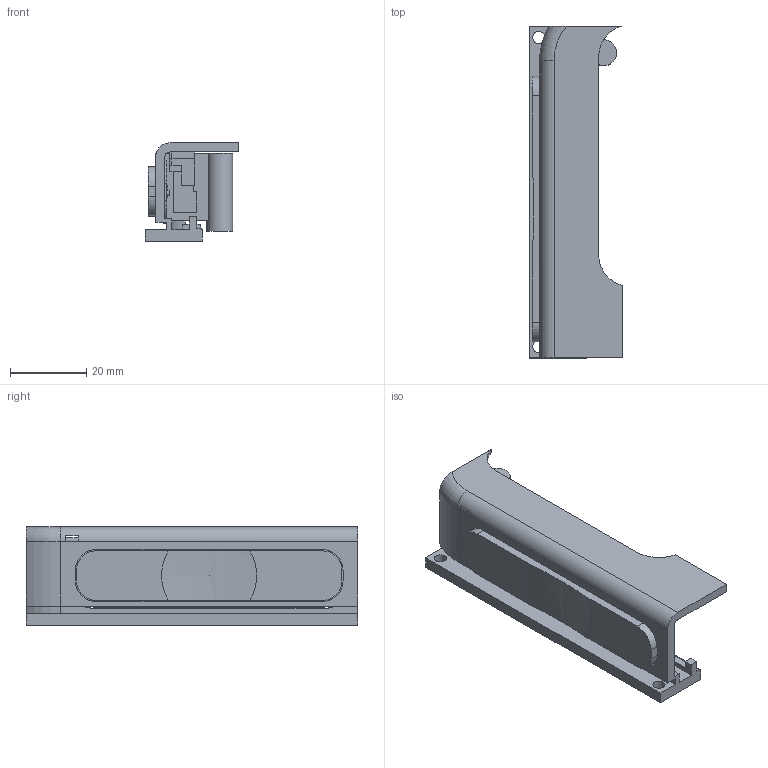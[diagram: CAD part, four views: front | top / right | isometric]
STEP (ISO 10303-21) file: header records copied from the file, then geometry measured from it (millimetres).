
FILE_DESCRIPTION(('Open CASCADE Model'),'2;1');
FILE_NAME('Open CASCADE Shape Model','2026-09-06T11:45:45',('Author'),( 'Open CASCADE'),'Open CASCADE STEP processor 7.7','Open CASCADE 7.7' ,'Unknown');
FILE_SCHEMA(('AUTOMOTIVE_DESIGN { 1 0 10303 214 1 1 1 1 }'));
Length unit declared in the file: millimetre
Products named in the file (10): C02_long_PTT; tub; tub_part; key; key_part; stop; stop_part; carrier; carrier_part
Assembly tree (9 placements, depth 4):
  C02_long_PTT
    C02_long_PTT
      tub
        tub_part
      key
        key_part
      stop
        stop_part
      carrier
        carrier_part
Bounding box: 24.5 x 87 x 25.8 mm (x, y, z)
Volume: 15936.4 mm3; surface area: 14857.3 mm2
Topology: 4 solids, 4 shells, 222 faces, 612 edges, 406 vertices
Faces by surface type: plane 159, cylinder 60, torus 2, sphere 1
Full cylindrical faces by diameter (mm): 1.25 x2, 1.4 x2, 1.6 x2, 1.8 x2, 2.1 x1, 2.6 x2, 3 x3, 3.2 x2, 3.6 x2, 4 x1, 6.8 x1
Entity records: 15737 total; most frequent: CARTESIAN_POINT 3398, DIRECTION 2276, LINE 1454, VECTOR 1454, ORIENTED_EDGE 1222, PCURVE 1222, DEFINITIONAL_REPRESENTATION 1222, EDGE_CURVE 611
